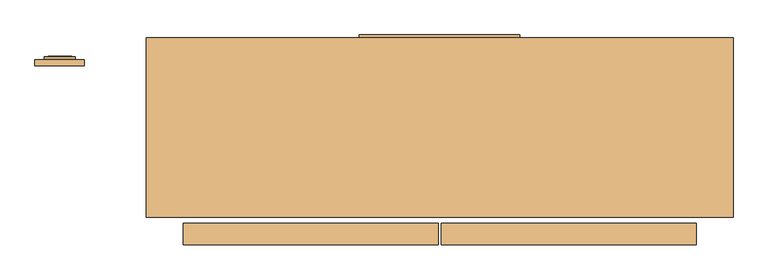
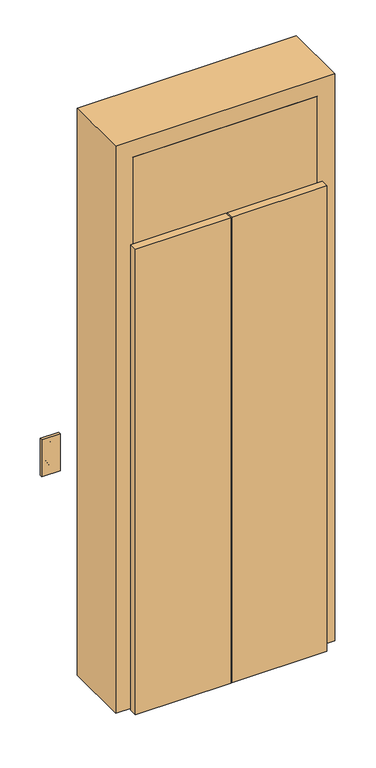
"""IFC4 building model written with IfcOpenShell, lengths in millimetres: door geometry, XX111-승객용 엘리베이터 (다용도, 800KG) 상판 출입구800 : 엘리베이터 800."""

from ifc_helpers import new_model, si_unit, point, frame, frame_2d, origin, origin_with_axes, place, context, project, spatial, polyline, circle_curve, trimmed, segment, composite_curve, outline, extrude, faceted_brep, source, transform, mapped, element, save


def door_097e9757(model_context):
    return source(origin(), model_context, "Body", "SolidModel", [
        extrude(outline(polyline([(1060.9866664, -470.6066865), (1060.9866664, -508.6656154), (1028.0266672, -489.6361509), (1060.9866664, -470.6066865)])), frame((0.0, 120.0, 0.0), z_axis=(0.0, 1.0, 0.0), x_axis=(0.0, 0.0, 1.0)), (0.0, 0.0, 1.0), 6.0),
        extrude(outline(polyline([(1141.9733328, -489.6361509), (1109.0133336, -508.6656154), (1109.0133336, -470.6066865), (1141.9733328, -489.6361509)])), frame((0.0, 120.0, 0.0), z_axis=(0.0, 1.0, 0.0), x_axis=(0.0, 0.0, 1.0)), (0.0, 0.0, 1.0), 6.0),
        extrude(outline(composite_curve([segment(trimmed(circle_curve(frame_2d((1120.0, -489.6361509)), 25.0), [point((1120.0, -464.6361509))], [point((1120.0, -514.6361509))], False, "CARTESIAN"), True, "CONTINUOUS"), segment(trimmed(circle_curve(frame_2d((1120.0, -489.6361509)), 25.0), [point((1120.0, -514.6361509))], [point((1120.0, -464.6361509))], False, "CARTESIAN"), True, "CONTINUOUS")], self_intersect=False), holes=[polyline([(1109.0133336, -508.6656154), (1141.9733328, -489.6361509), (1109.0133336, -470.6066865), (1109.0133336, -508.6656154)])]), frame((0.0, 120.0, 0.0), z_axis=(0.0, 1.0, 0.0), x_axis=(0.0, 0.0, 1.0)), (0.0, 0.0, 1.0), 5.0),
        extrude(outline(composite_curve([segment(trimmed(circle_curve(frame_2d((1050.0, -489.6361509)), 25.0), [point((1050.0, -464.6361509))], [point((1050.0, -514.6361509))], False, "CARTESIAN"), True, "CONTINUOUS"), segment(trimmed(circle_curve(frame_2d((1050.0, -489.6361509)), 25.0), [point((1050.0, -514.6361509))], [point((1050.0, -464.6361509))], False, "CARTESIAN"), True, "CONTINUOUS")], self_intersect=False), holes=[polyline([(1060.9866664, -508.6656154), (1060.9866664, -470.6066865), (1028.0266672, -489.6361509), (1060.9866664, -508.6656154)])]), frame((0.0, 120.0, 0.0), z_axis=(0.0, 1.0, 0.0), x_axis=(0.0, 0.0, 1.0)), (0.0, 0.0, 1.0), 5.0),
        extrude(outline(polyline([(-450.0, 110.0), (-530.0, 110.0), (-530.0, 120.0), (-450.0, 120.0), (-450.0, 110.0)])), frame((0.0, 0.0, 1000.0), z_axis=(0.0, 0.0, 1.0), x_axis=(1.0, 0.0, 0.0)), (0.0, 0.0, 1.0), 170.0),
        faceted_brep([(-315.0, 155.0, 0.0), (-275.0, -134.999444, 0.0), (-350.0, -134.999444, 0.0), (-350.0, 155.0, 0.0), (-315.0, 155.0, 2565.0), (-275.0, -134.999444, 2525.0), (525.0, -134.999444, 2525.0), (525.0, -134.999444, 0.0), (600.0, -134.999444, 0.0), (600.0, -134.999444, 2600.0), (-350.0, -134.999444, 2600.0), (-350.0, 155.0, 2600.0), (600.0, 155.0, 2600.0), (600.0, 155.0, 0.0), (565.0, 155.0, 0.0), (565.0, 155.0, 2565.0)], [[[0, 1, 2, 3]], [[1, 0, 4, 5]], [[2, 1, 5, 6, 7, 8, 9, 10]], [[3, 2, 10, 11]], [[0, 3, 11, 12, 13, 14, 15, 4]], [[5, 4, 15, 6]], [[11, 10, 9, 12]], [[14, 13, 8, 7]], [[6, 15, 14, 7]], [[12, 9, 8, 13]]]),
        extrude(outline(polyline([(122.500166, -144.701786), (122.500166, -179.701786), (-289.999834, -179.701786), (-289.999834, -144.701786), (122.500166, -144.701786)])), origin_with_axes(), (0.0, 0.0, 1.0), 2135.0),
        extrude(outline(polyline([(127.500166, -144.701786), (539.999834, -144.701786), (539.999834, -179.701786), (127.500166, -179.701786), (127.500166, -144.701786)])), origin_with_axes(), (0.0, 0.0, 1.0), 2135.0),
        faceted_brep([(-315.0, 155.0, 2565.0), (565.0, 155.0, 2565.0), (565.0, 155.0, 2100.0), (-315.0, 155.0, 2100.0), (-275.0, -134.999444, 2525.0), (-275.0, -134.999444, 2100.0), (525.0, -134.999444, 2100.0), (525.0, -134.999444, 2525.0)], [[[0, 1, 2, 3]], [[4, 5, 6, 7]], [[4, 7, 1, 0]], [[7, 6, 2, 1]], [[6, 5, 3, 2]], [[5, 4, 0, 3]]]),
        extrude(outline(polyline([(-5.0, 160.0), (255.0, 160.0), (255.0, 155.0), (-5.0, 155.0), (-5.0, 160.0)])), frame((0.0, 0.0, 2171.6666667), z_axis=(0.0, 0.0, 1.0), x_axis=(1.0, 0.0, 0.0)), (0.0, 0.0, 1.0), 70.0),
    ])


if __name__ == "__main__":
    model = new_model("IFC4")
    model_context = context("Model", 3, world=origin())
    ifc_project = project(units=[si_unit("LENGTHUNIT", "METRE", prefix="MILLI")], contexts=[model_context])
    site = spatial("IfcSite", under=ifc_project)
    building = spatial("IfcBuilding", under=site)
    placement = place(None, origin())
    door_shape = door_097e9757(model_context)
    element("IfcDoor", 1, ObjectType="XX111-승객용 엘리베이터 (다용도, 800KG) 상판 출입구800 : 엘리베이터 800", at=placement, inside=building, context=model_context, shape_type="MappedRepresentation", body=[
        mapped(door_shape, transform((0.0, 0.0, 0.0), x_axis=(1.0, 0.0, 0.0), y_axis=(0.0, 1.0, 0.0), z_axis=(0.0, 0.0, 1.0))),
    ])
    save(model, "model.ifc")
